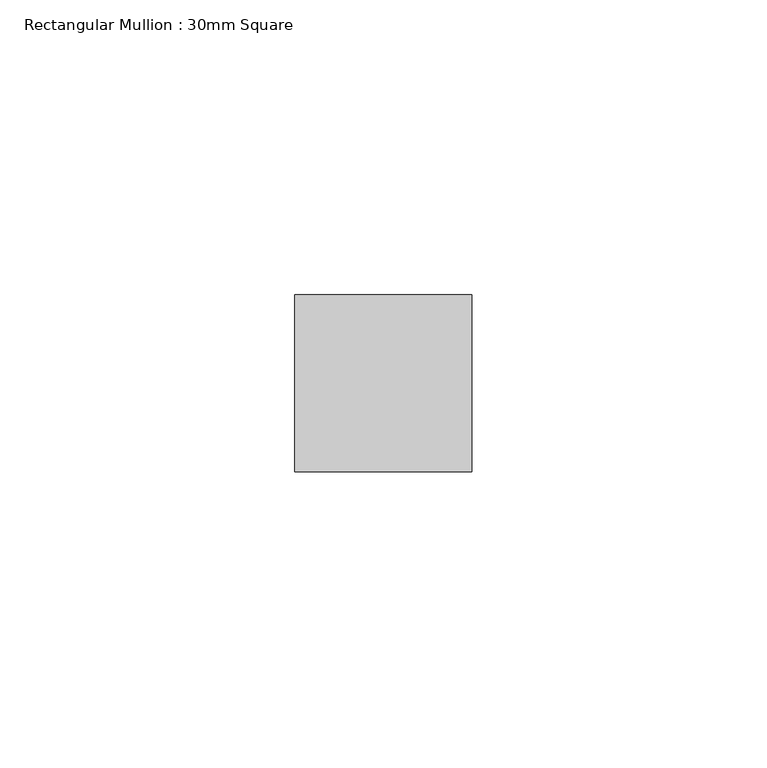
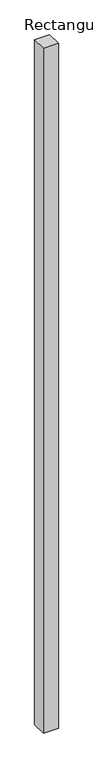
"""IFC4 building model written with IfcOpenShell, lengths in millimetres: member geometry, Rectangular Mullion : 30mm Square."""

import ifcopenshell
import ifcopenshell.guid

model = None  # the IFC model being written
_history = None  # IfcOwnerHistory: only IFC2X3 demands one
_inside = {}  # id of a spatial element -> (the spatial element, [elements in it])
_under = {}  # id of a project, library or spatial element -> (it, [spatial elements below it])
_declared = {}  # id of a project -> (the project, [libraries it declares])
_typed = {}  # id of a type object -> (the type object, [elements of that type])
_made_of = {}  # id of a material, layer set ... -> (it, [elements and type objects made of it])


def new_model(schema):
    """Start an empty IFC model of exactly this schema.

    Asked for "IFC4X3", IfcOpenShell would pick the latest addendum, in which some entities
    have other attributes; the version numbers below select the first issue.
    IFC2X3 requires an IfcOwnerHistory on every rooted entity: one is made here for all.
    """
    global model, _history
    if schema == "IFC4X3":
        model = ifcopenshell.file(schema_version=(4, 3, 0, 0))
    else:
        model = ifcopenshell.file(schema=schema)
    _inside.clear()
    _under.clear()
    _declared.clear()
    _typed.clear()
    _made_of.clear()
    _history = None
    if model.schema == "IFC2X3":
        org = make("IfcOrganization", Name="unknown")
        user = make(
            "IfcPersonAndOrganization",
            ThePerson=make("IfcPerson", FamilyName="unknown"),
            TheOrganization=org,
        )
        app = make(
            "IfcApplication",
            ApplicationDeveloper=org,
            Version="unknown",
            ApplicationFullName="unknown",
            ApplicationIdentifier="unknown",
        )
        _history = make(
            "IfcOwnerHistory",
            OwningUser=user,
            OwningApplication=app,
            ChangeAction="ADDED",
            CreationDate=0,
        )
    return model


def make(cls, **values):
    """One entity of the class cls with the attributes given. An attribute that is None is left unset."""
    return model.create_entity(
        cls, **{name: value for name, value in values.items() if value is not None}
    )


def rooted(cls, **values):
    """An entity with a GlobalId (a new one), such as an element, a storey or a relation."""
    return make(cls, GlobalId=ifcopenshell.guid.new(), OwnerHistory=_history, **values)


def si_unit(unit_type, name, prefix=None):
    """IfcSIUnit, for example si_unit("LENGTHUNIT", "METRE", prefix="MILLI")."""
    return make("IfcSIUnit", UnitType=unit_type, Prefix=prefix, Name=name)


def assignment(units):
    """IfcUnitAssignment: the units of a project."""
    return None if units is None else make("IfcUnitAssignment", Units=units)


def point(xyz):
    """IfcCartesianPoint."""
    return None if xyz is None else make("IfcCartesianPoint", Coordinates=xyz)


def direction(xyz):
    """IfcDirection."""
    return None if xyz is None else make("IfcDirection", DirectionRatios=xyz)


def frame(location, z_axis=None, x_axis=None):
    """IfcAxis2Placement3D, a coordinate frame: its origin and axes. An axis left out is left unset."""
    return make(
        "IfcAxis2Placement3D",
        Location=point(location),
        Axis=direction(z_axis),
        RefDirection=direction(x_axis),
    )


def origin():
    """The frame at (0, 0, 0) with its axes left unset."""
    return frame((0.0, 0.0, 0.0))


def place(relative_to, where):
    """IfcLocalPlacement: puts the frame where relative to a parent placement (None: the world)."""
    return make(
        "IfcLocalPlacement", PlacementRelTo=relative_to, RelativePlacement=where
    )


def context(
    kind, dimensions, precision=None, world=None, true_north=None, identifier=None
):
    """IfcGeometricRepresentationContext, for example the 3D "Model" context."""
    return make(
        "IfcGeometricRepresentationContext",
        ContextIdentifier=identifier,
        ContextType=kind,
        CoordinateSpaceDimension=dimensions,
        Precision=precision,
        WorldCoordinateSystem=world,
        TrueNorth=true_north,
    )


def project(units=None, contexts=None):
    """IfcProject with its units and contexts."""
    return rooted(
        "IfcProject",
        Name="project",
        RepresentationContexts=contexts,
        UnitsInContext=assignment(units),
    )


def spatial(cls, under=None, at=None, **own):
    """A site, building, storey or space (cls), placed at a placement, below another one or the project."""
    s = rooted(cls, ObjectPlacement=at, **own)
    if under is not None:
        _under.setdefault(under.id(), (under, []))[1].append(s)
    return s


def polyline(points):
    """IfcPolyline through the points."""
    return make("IfcPolyline", Points=[point(p) for p in points])


def outline(outer, holes=None, kind="AREA"):
    """IfcArbitraryClosedProfileDef: a profile drawn as a closed curve; with holes, ...WithVoids."""
    if holes is None:
        return make("IfcArbitraryClosedProfileDef", ProfileType=kind, OuterCurve=outer)
    return make(
        "IfcArbitraryProfileDefWithVoids",
        ProfileType=kind,
        OuterCurve=outer,
        InnerCurves=holes,
    )


def extrude(swept, where, along, depth):
    """IfcExtrudedAreaSolid: the profile swept, set in the frame where, extruded along a direction by depth."""
    return make(
        "IfcExtrudedAreaSolid",
        SweptArea=swept,
        Position=where,
        ExtrudedDirection=direction(along),
        Depth=depth,
    )


def shape(context_of_items, identifier, shape_type, items):
    """IfcShapeRepresentation: the items that make up one representation, for example the "Body"."""
    return make(
        "IfcShapeRepresentation",
        ContextOfItems=context_of_items,
        RepresentationIdentifier=identifier,
        RepresentationType=shape_type,
        Items=items,
    )


def source(mapping_origin, context_of_items, identifier, shape_type, items):
    """IfcRepresentationMap: a shape defined once, which mapped items show again and again."""
    return make(
        "IfcRepresentationMap",
        MappingOrigin=mapping_origin,
        MappedRepresentation=shape(context_of_items, identifier, shape_type, items),
    )


def transform(
    local_origin,
    x_axis=None,
    y_axis=None,
    z_axis=None,
    scale=None,
    scale2=None,
    scale3=None,
    uniform=True,
):
    """IfcCartesianTransformationOperator3D, or its non-uniform kind. x_axis, y_axis, z_axis: its Axis1, 2, 3."""
    if uniform:
        return make(
            "IfcCartesianTransformationOperator3D",
            Axis1=direction(x_axis),
            Axis2=direction(y_axis),
            LocalOrigin=point(local_origin),
            Scale=scale,
            Axis3=direction(z_axis),
        )
    return make(
        "IfcCartesianTransformationOperator3DnonUniform",
        Axis1=direction(x_axis),
        Axis2=direction(y_axis),
        LocalOrigin=point(local_origin),
        Scale=scale,
        Axis3=direction(z_axis),
        Scale2=scale2,
        Scale3=scale3,
    )


def mapped(mapping_source, mapping_target):
    """IfcMappedItem: shows the shape of a source again, moved by a transform."""
    return make(
        "IfcMappedItem", MappingSource=mapping_source, MappingTarget=mapping_target
    )


def made_of(thing, what):
    """Note that an element or type object is made of a material, layer set ...; save() writes the relation."""
    if what is not None:
        _made_of.setdefault(what.id(), (what, []))[1].append(thing)
    return thing


def element(
    cls,
    number,
    at=None,
    inside=None,
    cuts=None,
    type_object=None,
    material=None,
    context=None,
    identifier="Body",
    shape_type=None,
    held_by="IfcProductDefinitionShape",
    body=None,
    shapes=None,
    **own,
):
    """One element of the class cls, such as IfcWall. Its Tag is "e" and its number.

    at: its placement. inside: the storey or other place that contains it. cuts: it is an
    opening in that element (IfcRelVoidsElement). A single representation is given by context,
    identifier, shape_type and body (its items); several are given by shapes. held_by: the class
    of the entity that holds the representations. save() writes the other relations.
    """
    e = rooted(cls, Tag="e%d" % number, ObjectPlacement=at, **own)
    if body is not None:
        shapes = [shape(context, identifier, shape_type, body)]
    if shapes is not None:
        e.Representation = make(held_by, Representations=shapes)
    if inside is not None:
        _inside.setdefault(inside.id(), (inside, []))[1].append(e)
    if cuts is not None:
        rooted(
            "IfcRelVoidsElement", RelatingBuildingElement=cuts, RelatedOpeningElement=e
        )
    if type_object is not None:
        _typed.setdefault(type_object.id(), (type_object, []))[1].append(e)
    return made_of(e, material)


def aggregate(whole, parts):
    """IfcRelAggregates: a whole, such as a stair, and the parts it consists of."""
    return rooted("IfcRelAggregates", RelatingObject=whole, RelatedObjects=parts)


def save(model, path):
    """Write the relations noted so far, then the file.

    IfcRelAggregates (storeys below a building ...), IfcRelContainedInSpatialStructure (elements
    in a storey), IfcRelDefinesByType, IfcRelAssociatesMaterial and IfcRelDeclares: one each for
    every whole, place, type object, material and project.
    """
    for whole, parts in _under.values():
        aggregate(whole, parts)
    for where, things in _inside.values():
        rooted(
            "IfcRelContainedInSpatialStructure",
            RelatedElements=things,
            RelatingStructure=where,
        )
    for kind, things in _typed.values():
        rooted("IfcRelDefinesByType", RelatedObjects=things, RelatingType=kind)
    for what, things in _made_of.values():
        rooted("IfcRelAssociatesMaterial", RelatedObjects=things, RelatingMaterial=what)
    for by, libraries in _declared.values():
        rooted("IfcRelDeclares", RelatingContext=by, RelatedDefinitions=libraries)
    model.write(path)


def rectangular_mullion_30mm_square_fba6741d(model_context):
    return source(origin(), model_context, "Body", "SweptSolid", [
        extrude(outline(polyline([(0.0, 15.0), (0.0, -15.0), (-30.0, -15.0), (-30.0, 15.0), (0.0, 15.0)])), frame((0.0, 0.0, -1451.8409863), z_axis=(0.0, 0.0, 1.0), x_axis=(1.0, 0.0, 0.0)), (0.0, 0.0, 1.0), 1451.8409863),
    ])


if __name__ == "__main__":
    model = new_model("IFC4")
    model_context = context("Model", 3, world=origin())
    ifc_project = project(units=[si_unit("LENGTHUNIT", "METRE", prefix="MILLI")], contexts=[model_context])
    site = spatial("IfcSite", under=ifc_project)
    building = spatial("IfcBuilding", under=site)
    placement = place(None, origin())
    rectangular_mullion_30mm_square_shape = rectangular_mullion_30mm_square_fba6741d(model_context)
    element("IfcMember", 1, ObjectType="Rectangular Mullion : 30mm Square", at=placement, inside=building, context=model_context, shape_type="MappedRepresentation", body=[
        mapped(rectangular_mullion_30mm_square_shape, transform((0.0, 0.0, 0.0), x_axis=(1.0, 0.0, 0.0), y_axis=(0.0, 1.0, 0.0), z_axis=(0.0, 0.0, 1.0))),
    ])
    save(model, "model.ifc")
